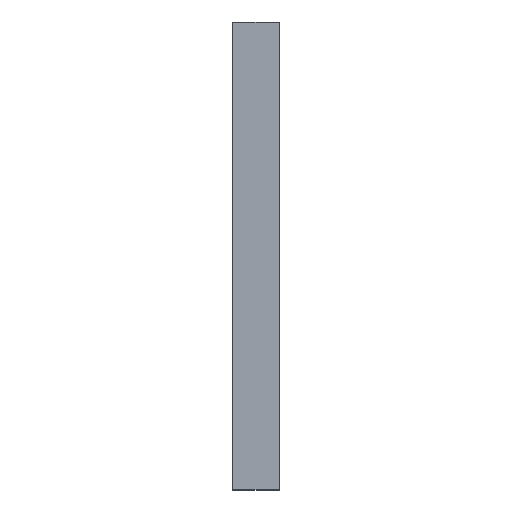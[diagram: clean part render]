
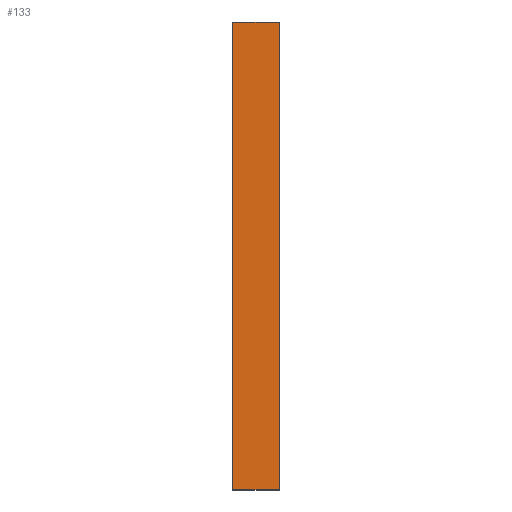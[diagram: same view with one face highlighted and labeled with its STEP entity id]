
A CAD part, top view. The second image highlights one B-rep face of the part: STEP entity #133.
In plain terms, the highlighted planar face has unit normal (0, 0, 1).
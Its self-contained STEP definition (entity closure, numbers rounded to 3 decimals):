
#21 = EDGE_CURVE('',#22,#24,#26,.T.);
#22 = VERTEX_POINT('',#23);
#23 = CARTESIAN_POINT('',(30.5,-10.,10.95));
#24 = VERTEX_POINT('',#25);
#25 = CARTESIAN_POINT('',(30.5,20.,10.95));
#26 = SURFACE_CURVE('',#27,(#31,#43),.PCURVE_S1.);
#27 = LINE('',#28,#29);
#28 = CARTESIAN_POINT('',(30.5,-34.,10.95));
#29 = VECTOR('',#30,1.);
#30 = DIRECTION('',(0.,1.,0.));
#31 = PCURVE('',#32,#37);
#32 = PLANE('',#33);
#33 = AXIS2_PLACEMENT_3D('',#34,#35,#36);
#34 = CARTESIAN_POINT('',(30.5,-34.,10.85));
#35 = DIRECTION('',(1.,0.,0.));
#36 = DIRECTION('',(0.,0.,1.));
#37 = DEFINITIONAL_REPRESENTATION('',(#38),#42);
#38 = LINE('',#39,#40);
#39 = CARTESIAN_POINT('',(0.1,0.));
#40 = VECTOR('',#41,1.);
#41 = DIRECTION('',(0.,-1.));
#42 = ( GEOMETRIC_REPRESENTATION_CONTEXT(2) 
PARAMETRIC_REPRESENTATION_CONTEXT() REPRESENTATION_CONTEXT('2D SPACE',''
  ) );
#43 = PCURVE('',#44,#49);
#44 = PLANE('',#45);
#45 = AXIS2_PLACEMENT_3D('',#46,#47,#48);
#46 = CARTESIAN_POINT('',(30.5,-34.,10.95));
#47 = DIRECTION('',(0.,0.,1.));
#48 = DIRECTION('',(1.,0.,0.));
#49 = DEFINITIONAL_REPRESENTATION('',(#50),#54);
#50 = LINE('',#51,#52);
#51 = CARTESIAN_POINT('',(0.,0.));
#52 = VECTOR('',#53,1.);
#53 = DIRECTION('',(0.,1.));
#54 = ( GEOMETRIC_REPRESENTATION_CONTEXT(2) 
PARAMETRIC_REPRESENTATION_CONTEXT() REPRESENTATION_CONTEXT('2D SPACE',''
  ) );
#71 = PLANE('',#72);
#72 = AXIS2_PLACEMENT_3D('',#73,#74,#75);
#73 = CARTESIAN_POINT('',(25.,-10.,2.));
#74 = DIRECTION('',(0.,1.,0.));
#75 = DIRECTION('',(0.,0.,1.));
#123 = PLANE('',#124);
#124 = AXIS2_PLACEMENT_3D('',#125,#126,#127);
#125 = CARTESIAN_POINT('',(25.,20.,2.));
#126 = DIRECTION('',(0.,1.,0.));
#127 = DIRECTION('',(0.,0.,1.));
#133 = ADVANCED_FACE('',(#134),#44,.T.);
#134 = FACE_BOUND('',#135,.T.);
#135 = EDGE_LOOP('',(#136,#137,#158,#186));
#136 = ORIENTED_EDGE('',*,*,#21,.F.);
#137 = ORIENTED_EDGE('',*,*,#138,.F.);
#138 = EDGE_CURVE('',#139,#22,#141,.T.);
#139 = VERTEX_POINT('',#140);
#140 = CARTESIAN_POINT('',(33.5,-10.,10.95));
#141 = SURFACE_CURVE('',#142,(#146,#152),.PCURVE_S1.);
#142 = LINE('',#143,#144);
#143 = CARTESIAN_POINT('',(27.75,-10.,10.95));
#144 = VECTOR('',#145,1.);
#145 = DIRECTION('',(-1.,0.,0.));
#146 = PCURVE('',#44,#147);
#147 = DEFINITIONAL_REPRESENTATION('',(#148),#151);
#148 = B_SPLINE_CURVE_WITH_KNOTS('',1,(#149,#150),.UNSPECIFIED.,.F.,.F.,
  (2,2),(-5.75,-2.75),.PIECEWISE_BEZIER_KNOTS.);
#149 = CARTESIAN_POINT('',(3.,24.));
#150 = CARTESIAN_POINT('',(0.,24.));
#151 = ( GEOMETRIC_REPRESENTATION_CONTEXT(2) 
PARAMETRIC_REPRESENTATION_CONTEXT() REPRESENTATION_CONTEXT('2D SPACE',''
  ) );
#152 = PCURVE('',#71,#153);
#153 = DEFINITIONAL_REPRESENTATION('',(#154),#157);
#154 = B_SPLINE_CURVE_WITH_KNOTS('',1,(#155,#156),.UNSPECIFIED.,.F.,.F.,
  (2,2),(-5.75,-2.75),.PIECEWISE_BEZIER_KNOTS.);
#155 = CARTESIAN_POINT('',(8.95,8.5));
#156 = CARTESIAN_POINT('',(8.95,5.5));
#157 = ( GEOMETRIC_REPRESENTATION_CONTEXT(2) 
PARAMETRIC_REPRESENTATION_CONTEXT() REPRESENTATION_CONTEXT('2D SPACE',''
  ) );
#158 = ORIENTED_EDGE('',*,*,#159,.T.);
#159 = EDGE_CURVE('',#139,#160,#162,.T.);
#160 = VERTEX_POINT('',#161);
#161 = CARTESIAN_POINT('',(33.5,20.,10.95));
#162 = SURFACE_CURVE('',#163,(#167,#174),.PCURVE_S1.);
#163 = LINE('',#164,#165);
#164 = CARTESIAN_POINT('',(33.5,-34.,10.95));
#165 = VECTOR('',#166,1.);
#166 = DIRECTION('',(0.,1.,0.));
#167 = PCURVE('',#44,#168);
#168 = DEFINITIONAL_REPRESENTATION('',(#169),#173);
#169 = LINE('',#170,#171);
#170 = CARTESIAN_POINT('',(3.,0.));
#171 = VECTOR('',#172,1.);
#172 = DIRECTION('',(0.,1.));
#173 = ( GEOMETRIC_REPRESENTATION_CONTEXT(2) 
PARAMETRIC_REPRESENTATION_CONTEXT() REPRESENTATION_CONTEXT('2D SPACE',''
  ) );
#174 = PCURVE('',#175,#180);
#175 = PLANE('',#176);
#176 = AXIS2_PLACEMENT_3D('',#177,#178,#179);
#177 = CARTESIAN_POINT('',(33.5,-34.,10.85));
#178 = DIRECTION('',(1.,0.,0.));
#179 = DIRECTION('',(0.,0.,1.));
#180 = DEFINITIONAL_REPRESENTATION('',(#181),#185);
#181 = LINE('',#182,#183);
#182 = CARTESIAN_POINT('',(0.1,0.));
#183 = VECTOR('',#184,1.);
#184 = DIRECTION('',(0.,-1.));
#185 = ( GEOMETRIC_REPRESENTATION_CONTEXT(2) 
PARAMETRIC_REPRESENTATION_CONTEXT() REPRESENTATION_CONTEXT('2D SPACE',''
  ) );
#186 = ORIENTED_EDGE('',*,*,#187,.T.);
#187 = EDGE_CURVE('',#160,#24,#188,.T.);
#188 = SURFACE_CURVE('',#189,(#193,#199),.PCURVE_S1.);
#189 = LINE('',#190,#191);
#190 = CARTESIAN_POINT('',(27.75,20.,10.95));
#191 = VECTOR('',#192,1.);
#192 = DIRECTION('',(-1.,0.,0.));
#193 = PCURVE('',#44,#194);
#194 = DEFINITIONAL_REPRESENTATION('',(#195),#198);
#195 = B_SPLINE_CURVE_WITH_KNOTS('',1,(#196,#197),.UNSPECIFIED.,.F.,.F.,
  (2,2),(-5.75,-2.75),.PIECEWISE_BEZIER_KNOTS.);
#196 = CARTESIAN_POINT('',(3.,54.));
#197 = CARTESIAN_POINT('',(0.,54.));
#198 = ( GEOMETRIC_REPRESENTATION_CONTEXT(2) 
PARAMETRIC_REPRESENTATION_CONTEXT() REPRESENTATION_CONTEXT('2D SPACE',''
  ) );
#199 = PCURVE('',#123,#200);
#200 = DEFINITIONAL_REPRESENTATION('',(#201),#204);
#201 = B_SPLINE_CURVE_WITH_KNOTS('',1,(#202,#203),.UNSPECIFIED.,.F.,.F.,
  (2,2),(-5.75,-2.75),.PIECEWISE_BEZIER_KNOTS.);
#202 = CARTESIAN_POINT('',(8.95,8.5));
#203 = CARTESIAN_POINT('',(8.95,5.5));
#204 = ( GEOMETRIC_REPRESENTATION_CONTEXT(2) 
PARAMETRIC_REPRESENTATION_CONTEXT() REPRESENTATION_CONTEXT('2D SPACE',''
  ) );
